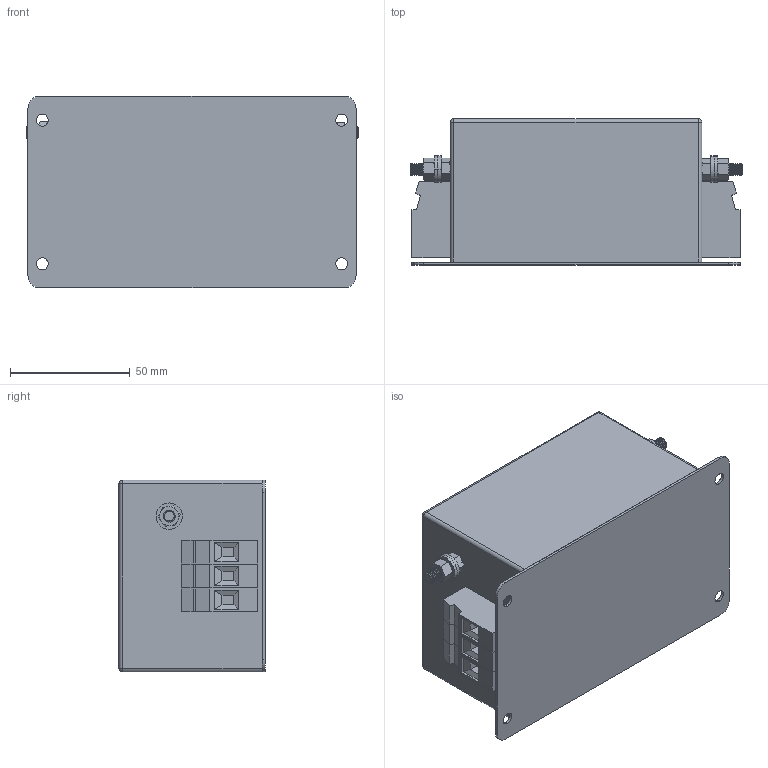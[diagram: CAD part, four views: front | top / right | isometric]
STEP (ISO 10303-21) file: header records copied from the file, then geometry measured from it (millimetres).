
FILE_DESCRIPTION (( 'STEP AP203' ), '1' );
FILE_NAME ('NF-DAR-25-3.STEP', '2018-09-21T10:32:11', ( '' ), ( '' ), 'SwSTEP 2.0', 'SolidWorks 2017', '' );
FILE_SCHEMA (( 'CONFIG_CONTROL_DESIGN' ));
Length unit declared in the file: millimetre
Products named in the file (8): hex screw_am_B18.6.7M - M5 x 0.8 x 13 Indented HHMS --13S; VDFK6x3; NF-DAR-25-3; NF-DAR25-3; VDFK-6; flat washer narrow_am_B18.22M - Plain washer, 5 mm, narrow; hex nut style 1_am_B18.2.4.1M - Hex nut, Style 1,  M5 x 0.8 --D-N; M5x13 Earth post
Assembly tree (12 placements, depth 3):
  NF-DAR-25-3
    NF-DAR25-3
    M5x13 Earth post  x2
      hex screw_am_B18.6.7M - M5 x 0.8 x 13 Indented HHMS --13S
      flat washer narrow_am_B18.22M - Plain washer, 5 mm, narrow
      hex nut style 1_am_B18.2.4.1M - Hex nut, Style 1,  M5 x 0.8 --D-N
    VDFK6x3  x2
      VDFK-6
Bounding box: 138.6 x 61 x 80 mm (x, y, z)
Volume: 526641.8 mm3; surface area: 87748.7 mm2
Topology: 16 solids, 16 shells, 690 faces, 1698 edges, 1064 vertices
Faces by surface type: plane 332, cylinder 178, cone 176, sphere 4
Entity records: 8587 total; most frequent: CARTESIAN_POINT 1429, DIRECTION 1413, ORIENTED_EDGE 1238, EDGE_CURVE 619, AXIS2_PLACEMENT_3D 562, VERTEX_POINT 386, CIRCLE 294, LINE 289
